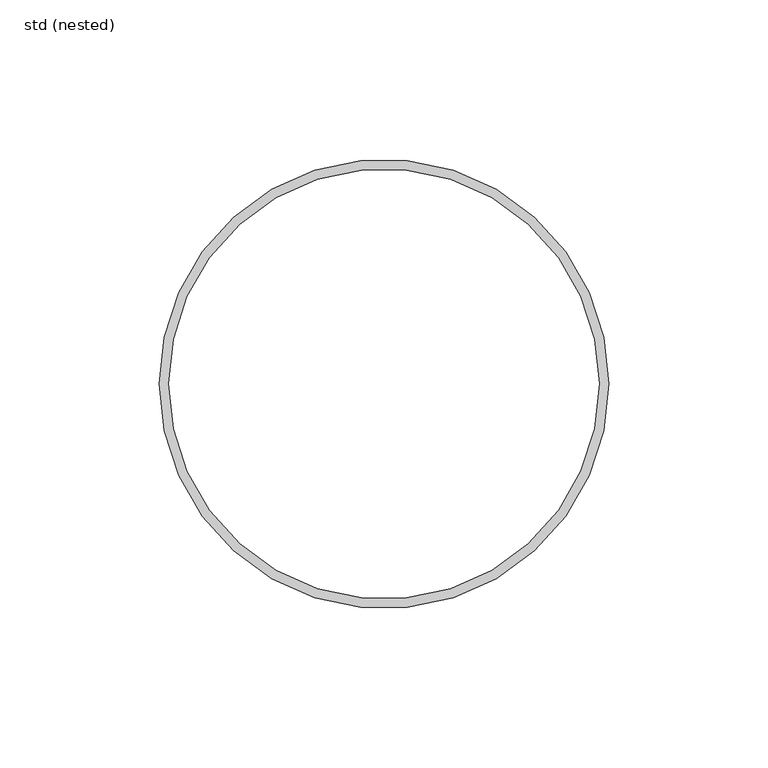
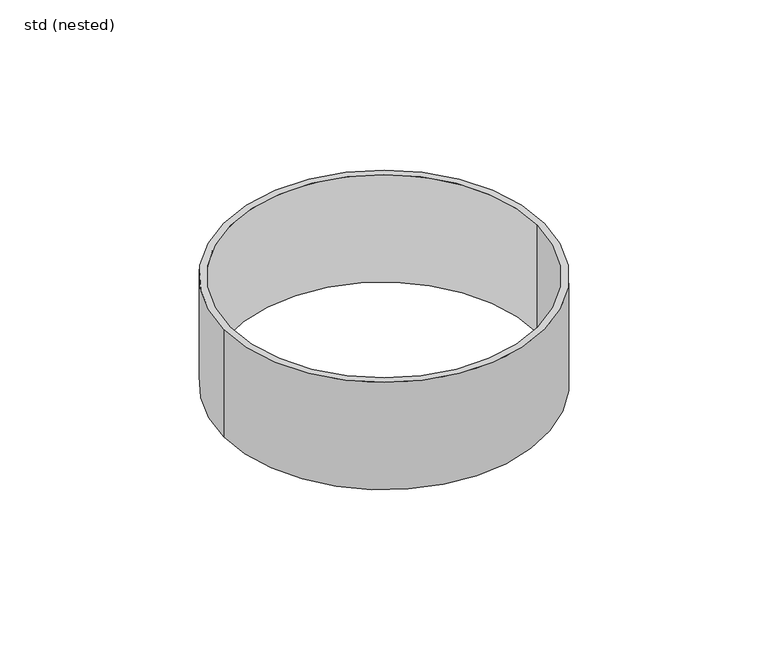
"""IFC4 building model written with IfcOpenShell, lengths in millimetres: pipe fitting geometry, ZZZ_do not use_PIF_ST_WPB_GM-X compound pipe clamp_ACO : std (nested)."""

from ifc_helpers import new_model, si_unit, point, frame, origin, origin_2d, place, context, project, spatial, circle_curve, trimmed, segment, composite_curve, outline, extrude, source, transform, mapped, element, save


def std_nested_bf630df5(model_context):
    return source(origin(), model_context, "Body", "SweptSolid", [
        extrude(outline(composite_curve([segment(trimmed(circle_curve(origin_2d(), 70.5), [point((70.5, 0.0))], [point((-70.5, 0.0))], False, "CARTESIAN"), True, "CONTINUOUS"), segment(trimmed(circle_curve(origin_2d(), 70.5), [point((-70.5, 0.0))], [point((70.5, 0.0))], False, "CARTESIAN"), True, "CONTINUOUS")], self_intersect=False), holes=[composite_curve([segment(trimmed(circle_curve(origin_2d(), 67.5), [point((67.5, 0.0))], [point((-67.5, 0.0))], True, "CARTESIAN"), True, "CONTINUOUS"), segment(trimmed(circle_curve(origin_2d(), 67.5), [point((-67.5, 0.0))], [point((67.5, 0.0))], True, "CARTESIAN"), True, "CONTINUOUS")], self_intersect=False)]), frame((0.0, 0.0, -37.5), z_axis=(0.0, 0.0, 1.0), x_axis=(1.0, 0.0, 0.0)), (0.0, 0.0, 1.0), 50.0),
    ])


if __name__ == "__main__":
    model = new_model("IFC4")
    model_context = context("Model", 3, world=origin())
    ifc_project = project(units=[si_unit("LENGTHUNIT", "METRE", prefix="MILLI")], contexts=[model_context])
    site = spatial("IfcSite", under=ifc_project)
    building = spatial("IfcBuilding", under=site)
    placement = place(None, origin())
    std_nested_shape = std_nested_bf630df5(model_context)
    element("IfcPipeFitting", 1, ObjectType="ZZZ_do not use_PIF_ST_WPB_GM-X compound pipe clamp_ACO : std (nested)", at=placement, inside=building, context=model_context, shape_type="MappedRepresentation", body=[
        mapped(std_nested_shape, transform((0.0, 0.0, 0.0), x_axis=(1.0, 0.0, 0.0), y_axis=(0.0, 1.0, 0.0), z_axis=(0.0, 0.0, 1.0))),
    ])
    save(model, "model.ifc")
